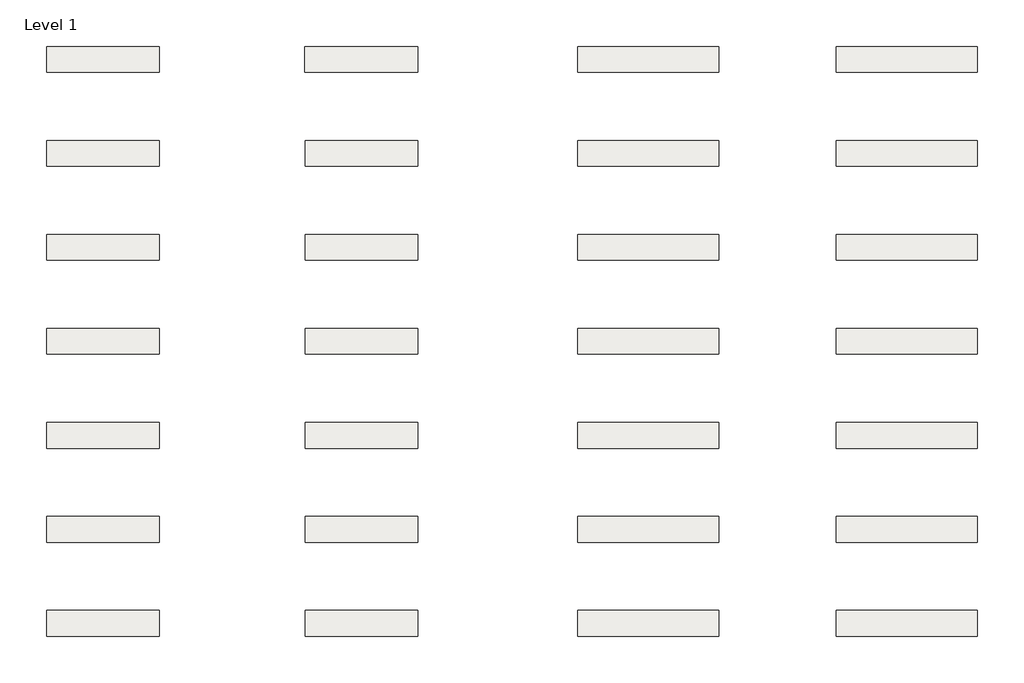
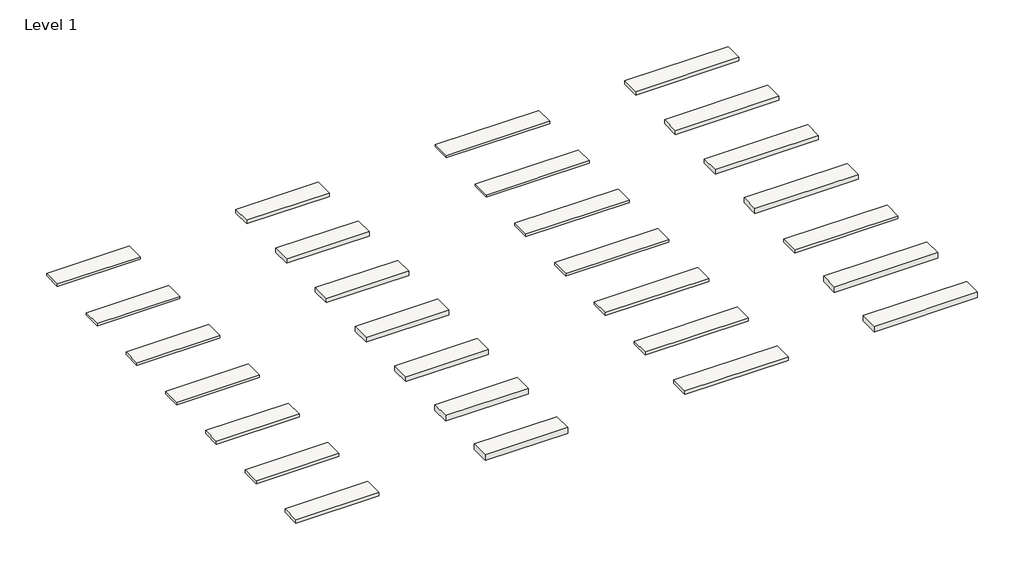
# One storey: 28 roofs.
"""IFC4 building model written with IfcOpenShell, lengths in millimetres."""

from ifc_helpers import new_model, si_unit, origin, origin_with_axes, place, context, project, spatial, polyline, outline, extrude, element, save

model = new_model("IFC4")

# Units and contexts
model_context = context("Model", 3, world=origin())
ifc_project = project(units=[si_unit("LENGTHUNIT", "METRE", prefix="MILLI")], contexts=[model_context])

# Site, building, storey
site = spatial("IfcSite", under=ifc_project)
building = spatial("IfcBuilding", under=site)
storey = spatial("IfcBuildingStorey", under=building, Name="Level 1", Elevation=0.0)

# Roofs
placement = place(None, origin())
element("IfcRoof", 1, ObjectType="Panel Thermochip TAH 10-40-19 (2400x550)", at=placement, inside=storey, context=model_context, shape_type="SweptSolid", body=[
    extrude(outline(polyline([(-22078.9678788, 4399.8223879), (-19678.9678788, 4399.8223879), (-19678.9678788, 3849.8223879), (-22078.9678788, 3849.8223879), (-22078.9678788, 4399.8223879)])), origin_with_axes(), (0.0, 0.0, 1.0), 69.0),
])
element("IfcRoof", 2, ObjectType="Panel Thermochip TAH 10-40-16 (2400x550)", at=placement, inside=storey, context=model_context, shape_type="SweptSolid", body=[
    extrude(outline(polyline([(-22078.9678788, 6399.8223879), (-19678.9678788, 6399.8223879), (-19678.9678788, 5849.8223879), (-22078.9678788, 5849.8223879), (-22078.9678788, 6399.8223879)])), origin_with_axes(), (0.0, 0.0, 1.0), 66.0),
])
element("IfcRoof", 3, ObjectType="Panel Thermochip TAH 10-60-16 (2400x550)", at=placement, inside=storey, context=model_context, shape_type="SweptSolid", body=[
    extrude(outline(polyline([(-22078.9678788, -1600.1776121), (-19678.9678788, -1600.1776121), (-19678.9678788, -2150.1776121), (-22078.9678788, -2150.1776121), (-22078.9678788, -1600.1776121)])), origin_with_axes(), (0.0, 0.0, 1.0), 86.0),
])
element("IfcRoof", 4, ObjectType="Panel Thermochip TAH 10-60-19 (2400x550)", at=placement, inside=storey, context=model_context, shape_type="SweptSolid", body=[
    extrude(outline(polyline([(-22078.9678788, -3600.1776121), (-19678.9678788, -3600.1776121), (-19678.9678788, -4150.1776121), (-22078.9678788, -4150.1776121), (-22078.9678788, -3600.1776121)])), origin_with_axes(), (0.0, 0.0, 1.0), 89.0),
])
element("IfcRoof", 5, ObjectType="Panel Thermochip TAH 10-80-16 (2400x550)", at=placement, inside=storey, context=model_context, shape_type="SweptSolid", body=[
    extrude(outline(polyline([(-22078.9678788, -5600.1776121), (-19678.9678788, -5600.1776121), (-19678.9678788, -6150.1776121), (-22078.9678788, -6150.1776121), (-22078.9678788, -5600.1776121)])), origin_with_axes(), (0.0, 0.0, 1.0), 106.0),
])
element("IfcRoof", 6, ObjectType="Panel Thermochip TAH 10-140-19 (2400x550)", at=placement, inside=storey, context=model_context, shape_type="SweptSolid", body=[
    extrude(outline(polyline([(-16578.9678788, -5600.1776121), (-14178.9678788, -5600.1776121), (-14178.9678788, -6150.1776121), (-16578.9678788, -6150.1776121), (-16578.9678788, -5600.1776121)])), origin_with_axes(), (0.0, 0.0, 1.0), 169.0),
])
element("IfcRoof", 7, ObjectType="Panel Thermochip TAH 10-140-16 (2400x550)", at=placement, inside=storey, context=model_context, shape_type="SweptSolid", body=[
    extrude(outline(polyline([(-16578.9678788, -3600.1776121), (-14178.9678788, -3600.1776121), (-14178.9678788, -4150.1776121), (-16578.9678788, -4150.1776121), (-16578.9678788, -3600.1776121)])), origin_with_axes(), (0.0, 0.0, 1.0), 166.0),
])
element("IfcRoof", 8, ObjectType="Panel Thermochip TAH 10-120-19 (2400x550)", at=placement, inside=storey, context=model_context, shape_type="SweptSolid", body=[
    extrude(outline(polyline([(-16578.9678788, -1600.1776121), (-14178.9678788, -1600.1776121), (-14178.9678788, -2150.1776121), (-16578.9678788, -2150.1776121), (-16578.9678788, -1600.1776121)])), origin_with_axes(), (0.0, 0.0, 1.0), 149.0),
])
element("IfcRoof", 9, ObjectType="Panel Thermochip TAH 10-120-16 (2400x550)", at=placement, inside=storey, context=model_context, shape_type="SweptSolid", body=[
    extrude(outline(polyline([(-16578.9678788, 399.8223879), (-14178.9678788, 399.8223879), (-14178.9678788, -150.1776121), (-16578.9678788, -150.1776121), (-16578.9678788, 399.8223879)])), origin_with_axes(), (0.0, 0.0, 1.0), 146.0),
])
element("IfcRoof", 10, ObjectType="Panel Thermochip TAH 10-100-19 (2400x550)", at=placement, inside=storey, context=model_context, shape_type="SweptSolid", body=[
    extrude(outline(polyline([(-16578.9678788, 2399.8223879), (-14178.9678788, 2399.8223879), (-14178.9678788, 1849.8223879), (-16578.9678788, 1849.8223879), (-16578.9678788, 2399.8223879)])), origin_with_axes(), (0.0, 0.0, 1.0), 129.0),
])
element("IfcRoof", 11, ObjectType="Panel Thermochip TAH 10-100-16 (2400x550)", at=placement, inside=storey, context=model_context, shape_type="SweptSolid", body=[
    extrude(outline(polyline([(-16578.9678788, 4399.8223879), (-14178.9678788, 4399.8223879), (-14178.9678788, 3849.8223879), (-16578.9678788, 3849.8223879), (-16578.9678788, 4399.8223879)])), origin_with_axes(), (0.0, 0.0, 1.0), 126.0),
])
element("IfcRoof", 12, ObjectType="Panel Thermochip TAH 10-80-19 (2400x550)", at=placement, inside=storey, context=model_context, shape_type="SweptSolid", body=[
    extrude(outline(polyline([(-16582.0170533, 6399.8223879), (-14182.0170533, 6399.8223879), (-14182.0170533, 5849.8223879), (-16582.0170533, 5849.8223879), (-16582.0170533, 6399.8223879)])), origin_with_axes(), (0.0, 0.0, 1.0), 109.0),
])
element("IfcRoof", 13, ObjectType="Panel Thermochip TAH 10-50-19 (2400x550)", at=placement, inside=storey, context=model_context, shape_type="SweptSolid", body=[
    extrude(outline(polyline([(-22078.9678788, 399.8223879), (-19678.9678788, 399.8223879), (-19678.9678788, -150.1776121), (-22078.9678788, -150.1776121), (-22078.9678788, 399.8223879)])), origin_with_axes(), (0.0, 0.0, 1.0), 79.0),
])
element("IfcRoof", 14, ObjectType="Panel Thermochip TAH 10-40-16 (3000x550)", at=placement, inside=storey, context=model_context, shape_type="SweptSolid", body=[
    extrude(outline(polyline([(-10778.9678788, 6399.8223879), (-7778.9678788, 6399.8223879), (-7778.9678788, 5849.8223879), (-10778.9678788, 5849.8223879), (-10778.9678788, 6399.8223879)])), origin_with_axes(), (0.0, 0.0, 1.0), 66.0),
])
element("IfcRoof", 15, ObjectType="Panel Thermochip TAH 10-40-19 (3000x550)", at=placement, inside=storey, context=model_context, shape_type="SweptSolid", body=[
    extrude(outline(polyline([(-10778.9678788, 4399.8223879), (-7778.9678788, 4399.8223879), (-7778.9678788, 3849.8223879), (-10778.9678788, 3849.8223879), (-10778.9678788, 4399.8223879)])), origin_with_axes(), (0.0, 0.0, 1.0), 69.0),
])
element("IfcRoof", 16, ObjectType="Panel Thermochip TAH 10-50-16 (3000x550)", at=placement, inside=storey, context=model_context, shape_type="SweptSolid", body=[
    extrude(outline(polyline([(-10778.9678788, 2399.8223879), (-7778.9678788, 2399.8223879), (-7778.9678788, 1849.8223879), (-10778.9678788, 1849.8223879), (-10778.9678788, 2399.8223879)])), origin_with_axes(), (0.0, 0.0, 1.0), 76.0),
])
element("IfcRoof", 17, ObjectType="Panel Thermochip TAH 10-50-19 (3000x550)", at=placement, inside=storey, context=model_context, shape_type="SweptSolid", body=[
    extrude(outline(polyline([(-10778.9678788, 399.8223879), (-7778.9678788, 399.8223879), (-7778.9678788, -150.1776121), (-10778.9678788, -150.1776121), (-10778.9678788, 399.8223879)])), origin_with_axes(), (0.0, 0.0, 1.0), 79.0),
])
element("IfcRoof", 18, ObjectType="Panel Thermochip TAH 10-60-16 (3000x550)", at=placement, inside=storey, context=model_context, shape_type="SweptSolid", body=[
    extrude(outline(polyline([(-10778.9678788, -1600.1776121), (-7778.9678788, -1600.1776121), (-7778.9678788, -2150.1776121), (-10778.9678788, -2150.1776121), (-10778.9678788, -1600.1776121)])), origin_with_axes(), (0.0, 0.0, 1.0), 86.0),
])
element("IfcRoof", 19, ObjectType="Panel Thermochip TAH 10-60-19 (3000x550)", at=placement, inside=storey, context=model_context, shape_type="SweptSolid", body=[
    extrude(outline(polyline([(-10778.9678788, -3600.1776121), (-7778.9678788, -3600.1776121), (-7778.9678788, -4150.1776121), (-10778.9678788, -4150.1776121), (-10778.9678788, -3600.1776121)])), origin_with_axes(), (0.0, 0.0, 1.0), 89.0),
])
element("IfcRoof", 20, ObjectType="Panel Thermochip TAH 10-80-16 (3000x550)", at=placement, inside=storey, context=model_context, shape_type="SweptSolid", body=[
    extrude(outline(polyline([(-10778.9678788, -5600.1776121), (-7778.9678788, -5600.1776121), (-7778.9678788, -6150.1776121), (-10778.9678788, -6150.1776121), (-10778.9678788, -5600.1776121)])), origin_with_axes(), (0.0, 0.0, 1.0), 106.0),
])
element("IfcRoof", 21, ObjectType="Panel Thermochip TAH 10-80-19 (3000x550)", at=placement, inside=storey, context=model_context, shape_type="SweptSolid", body=[
    extrude(outline(polyline([(-5278.9678788, 6399.8223879), (-2278.9678788, 6399.8223879), (-2278.9678788, 5849.8223879), (-5278.9678788, 5849.8223879), (-5278.9678788, 6399.8223879)])), origin_with_axes(), (0.0, 0.0, 1.0), 109.0),
])
element("IfcRoof", 22, ObjectType="Panel Thermochip TAH 10-100-16 (3000x550)", at=placement, inside=storey, context=model_context, shape_type="SweptSolid", body=[
    extrude(outline(polyline([(-5278.9678788, 4399.8223879), (-2278.9678788, 4399.8223879), (-2278.9678788, 3849.8223879), (-5278.9678788, 3849.8223879), (-5278.9678788, 4399.8223879)])), origin_with_axes(), (0.0, 0.0, 1.0), 126.0),
])
element("IfcRoof", 23, ObjectType="Panel Thermochip TAH 10-100-19 (3000x550)", at=placement, inside=storey, context=model_context, shape_type="SweptSolid", body=[
    extrude(outline(polyline([(-5278.9678788, 2399.8223879), (-2278.9678788, 2399.8223879), (-2278.9678788, 1849.8223879), (-5278.9678788, 1849.8223879), (-5278.9678788, 2399.8223879)])), origin_with_axes(), (0.0, 0.0, 1.0), 129.0),
])
element("IfcRoof", 24, ObjectType="Panel Thermochip TAH 10-120-16 (3000x550)", at=placement, inside=storey, context=model_context, shape_type="SweptSolid", body=[
    extrude(outline(polyline([(-5278.9678788, 399.8223879), (-2278.9678788, 399.8223879), (-2278.9678788, -150.1776121), (-5278.9678788, -150.1776121), (-5278.9678788, 399.8223879)])), origin_with_axes(), (0.0, 0.0, 1.0), 146.0),
])
element("IfcRoof", 25, ObjectType="Panel Thermochip TAH 10-120-19 (3000x550)", at=placement, inside=storey, context=model_context, shape_type="SweptSolid", body=[
    extrude(outline(polyline([(-5278.9678788, -1600.1776121), (-2278.9678788, -1600.1776121), (-2278.9678788, -2150.1776121), (-5278.9678788, -2150.1776121), (-5278.9678788, -1600.1776121)])), origin_with_axes(), (0.0, 0.0, 1.0), 86.0),
])
element("IfcRoof", 26, ObjectType="Panel Thermochip TAH 10-140-16 (3000x550)", at=placement, inside=storey, context=model_context, shape_type="SweptSolid", body=[
    extrude(outline(polyline([(-5278.9678788, -3600.1776121), (-2278.9678788, -3600.1776121), (-2278.9678788, -4150.1776121), (-5278.9678788, -4150.1776121), (-5278.9678788, -3600.1776121)])), origin_with_axes(), (0.0, 0.0, 1.0), 166.0),
])
element("IfcRoof", 27, ObjectType="Panel Thermochip TAH 10-140-19 (3000x550)", at=placement, inside=storey, context=model_context, shape_type="SweptSolid", body=[
    extrude(outline(polyline([(-5278.9678788, -5600.1776121), (-2278.9678788, -5600.1776121), (-2278.9678788, -6150.1776121), (-5278.9678788, -6150.1776121), (-5278.9678788, -5600.1776121)])), origin_with_axes(), (0.0, 0.0, 1.0), 169.0),
])
element("IfcRoof", 28, ObjectType="Panel Thermochip TAH 10-50-16 (2400x550)", at=placement, inside=storey, context=model_context, shape_type="SweptSolid", body=[
    extrude(outline(polyline([(-22078.9678788, 2399.8223879), (-19678.9678788, 2399.8223879), (-19678.9678788, 1849.8223879), (-22078.9678788, 1849.8223879), (-22078.9678788, 2399.8223879)])), origin_with_axes(), (0.0, 0.0, 1.0), 76.0),
])

save(model, "model.ifc")
